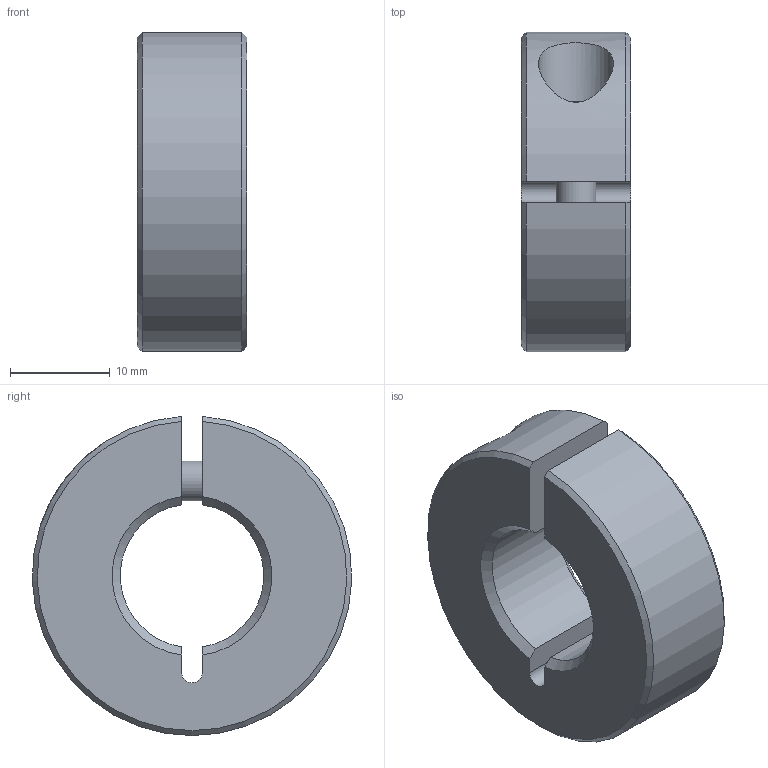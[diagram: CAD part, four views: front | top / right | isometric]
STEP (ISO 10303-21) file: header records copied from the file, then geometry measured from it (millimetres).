
FILE_DESCRIPTION( ( 'STEP AP203' ), '1' );
FILE_NAME( 'C:/Temp/Ganter_Step_05_03_2020/data/3_2/gn706_3/gn706_3_st/Threaded set collar GN 706.3-32-M16x1,5-ST.stp', '2020-03-13T05:33:34', ( 'License CC BY-ND 4.0' ), ( 'CADENAS' ), ' ', 'PARTsolutions', ' ' );
FILE_SCHEMA( ( 'CONFIG_CONTROL_DESIGN' ) );
Length unit declared in the file: millimetre
Products named in the file (1): _Threaded set collar GN 706.3-32-M16x1,5-ST
Bounding box: 11 x 31.98 x 31.97 mm (x, y, z)
Volume: 6539.3 mm3; surface area: 3338.1 mm2
Topology: 1 solids, 1 shells, 31 faces, 74 edges, 49 vertices
Faces by surface type: plane 16, cylinder 8, cone 6, torus 1
Full cylindrical faces by diameter (mm): 4 x1, 4.3 x1, 7 x1, 7.5 x1
Entity records: 1006 total; most frequent: CARTESIAN_POINT 257, DIRECTION 142, ORIENTED_EDGE 138, EDGE_CURVE 69, AXIS2_PLACEMENT_3D 54, VERTEX_POINT 49, EDGE_LOOP 42, FACE_OUTER_BOUND 36
